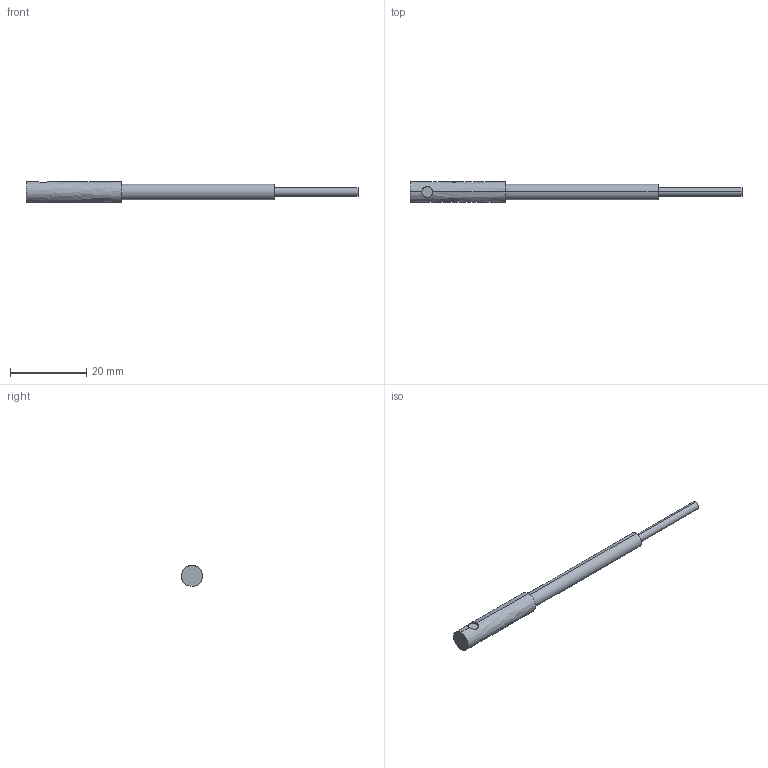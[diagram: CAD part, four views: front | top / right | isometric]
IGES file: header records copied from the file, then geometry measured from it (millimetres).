
Start section: SolidWorks IGES FILE using analytic representation for surfaces
Global section: file name: \\intra-srv04\開発データ\CAD_Data\CAD委員会\3D電子ｶﾀﾛｸﾞ\製品カタログ（新）\0_IGES\FT-V8Y.IGS,41HSolidWorks 2004; native system: by SolidWorks Corporation; preprocessor: Version 5.3; author: mf1158; date: 050908.111216; units: millimetre
Bounding box: 87 x 5.5 x 5.5 mm (x, y, z)
Volume: 1178.3 mm3; surface area: 1135.8 mm2
Topology: 1 solids, 1 shells, 13 faces, 25 edges, 16 vertices
Faces by surface type: revolution 8, plane 5
